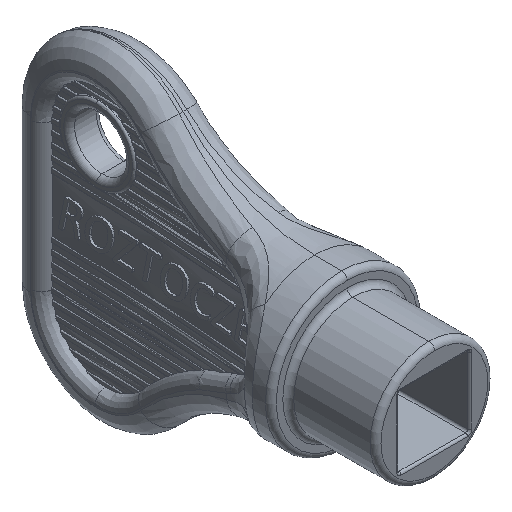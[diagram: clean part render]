
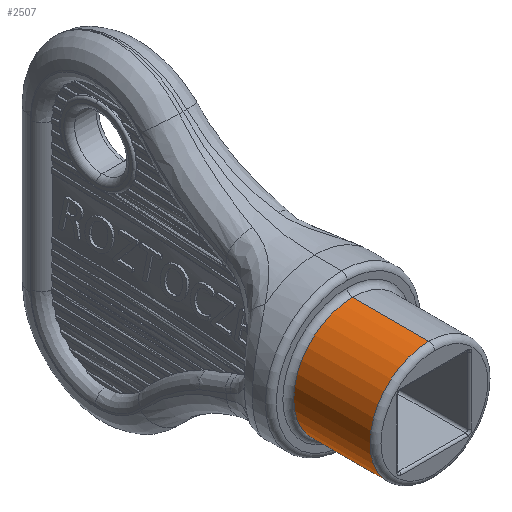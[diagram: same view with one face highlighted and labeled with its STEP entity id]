
A CAD part, isometric view. The second image highlights one B-rep face of the part: STEP entity #2507.
In plain terms, the highlighted cylindrical face has radius 5.4 mm (diameter 10.8 mm), a partial arc.
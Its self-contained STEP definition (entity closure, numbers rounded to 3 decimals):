
#303 = CARTESIAN_POINT ( 'NONE',  ( 0., 1., 5.4 ) ) ;
#795 = CARTESIAN_POINT ( 'NONE',  ( 0., 0.5, 0. ) ) ;
#1151 = VERTEX_POINT ( 'NONE', #9700 ) ;
#1296 = CARTESIAN_POINT ( 'NONE',  ( 0., -6.5, -5.4 ) ) ;
#2308 = DIRECTION ( 'NONE',  ( 0., 0., -1. ) ) ;
#2507 = ADVANCED_FACE ( 'NONE', ( #12934 ), #6305, .T. ) ;
#3453 = DIRECTION ( 'NONE',  ( 0., 1., 0. ) ) ;
#3879 = EDGE_CURVE ( 'NONE', #14565, #15376, #14672, .T. ) ;
#4649 = DIRECTION ( 'NONE',  ( 0., 0., -1. ) ) ;
#5584 = AXIS2_PLACEMENT_3D ( 'NONE', #12805, #8800, #2308 ) ;
#6184 = ORIENTED_EDGE ( 'NONE', *, *, #3879, .T. ) ;
#6195 = EDGE_CURVE ( 'NONE', #13610, #14565, #14442, .T. ) ;
#6305 = CYLINDRICAL_SURFACE ( 'NONE', #5584, 5.4 ) ;
#6856 = DIRECTION ( 'NONE',  ( 0., -1., 0. ) ) ;
#8681 = ORIENTED_EDGE ( 'NONE', *, *, #6195, .T. ) ;
#8705 = CIRCLE ( 'NONE', #23815, 5.4 ) ;
#8800 = DIRECTION ( 'NONE',  ( 0., -1., 0. ) ) ;
#9700 = CARTESIAN_POINT ( 'NONE',  ( 0., -6.5, 5.4 ) ) ;
#12805 = CARTESIAN_POINT ( 'NONE',  ( 0., 1., 0. ) ) ;
#12865 = EDGE_CURVE ( 'NONE', #15376, #1151, #8705, .T. ) ;
#12934 = FACE_OUTER_BOUND ( 'NONE', #23456, .T. ) ;
#13610 = VERTEX_POINT ( 'NONE', #25015 ) ;
#13695 = ORIENTED_EDGE ( 'NONE', *, *, #12865, .T. ) ;
#14069 = DIRECTION ( 'NONE',  ( 0., 0., -1. ) ) ;
#14442 = CIRCLE ( 'NONE', #17084, 5.4 ) ;
#14565 = VERTEX_POINT ( 'NONE', #20644 ) ;
#14672 = LINE ( 'NONE', #18672, #26525 ) ;
#15373 = ORIENTED_EDGE ( 'NONE', *, *, #20123, .F. ) ;
#15376 = VERTEX_POINT ( 'NONE', #1296 ) ;
#17084 = AXIS2_PLACEMENT_3D ( 'NONE', #795, #6856, #4649 ) ;
#17133 = DIRECTION ( 'NONE',  ( 0., -1., 0. ) ) ;
#17876 = VECTOR ( 'NONE', #17133, 1000. ) ;
#18672 = CARTESIAN_POINT ( 'NONE',  ( 0., 1., -5.4 ) ) ;
#19187 = LINE ( 'NONE', #303, #17876 ) ;
#20123 = EDGE_CURVE ( 'NONE', #13610, #1151, #19187, .T. ) ;
#20644 = CARTESIAN_POINT ( 'NONE',  ( 0., 0.5, -5.4 ) ) ;
#22221 = CARTESIAN_POINT ( 'NONE',  ( 0., -6.5, 0. ) ) ;
#23456 = EDGE_LOOP ( 'NONE', ( #15373, #8681, #6184, #13695 ) ) ;
#23815 = AXIS2_PLACEMENT_3D ( 'NONE', #22221, #3453, #14069 ) ;
#25015 = CARTESIAN_POINT ( 'NONE',  ( 0., 0.5, 5.4 ) ) ;
#26525 = VECTOR ( 'NONE', #27083, 1000. ) ;
#27083 = DIRECTION ( 'NONE',  ( 0., -1., 0. ) ) ;
